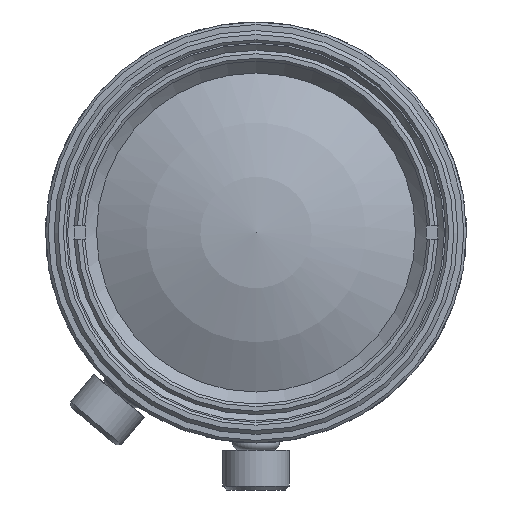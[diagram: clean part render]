
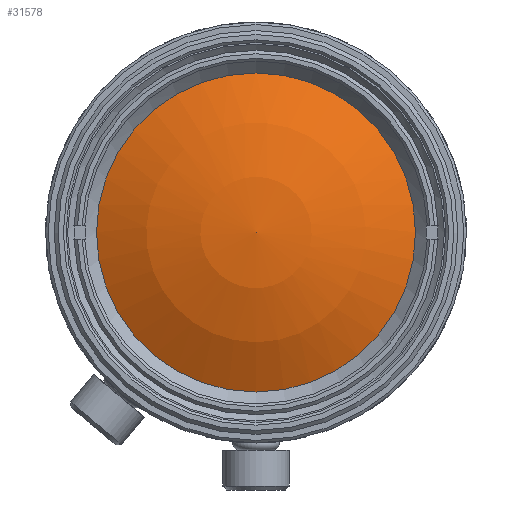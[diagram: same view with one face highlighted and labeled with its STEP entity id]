
A CAD part, front view. The second image highlights one B-rep face of the part: STEP entity #31578.
In plain terms, the highlighted spherical face has radius 24.961 mm.
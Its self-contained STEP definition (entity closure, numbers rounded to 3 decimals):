
#166=SPHERICAL_SURFACE('',#33742,24.961);
#10682=ORIENTED_EDGE('',*,*,#13988,.F.);
#13988=EDGE_CURVE('',#16210,#16210,#17100,.T.);
#16210=VERTEX_POINT('',#58558);
#17100=CIRCLE('',#33743,12.139);
#18671=EDGE_LOOP('',(#10682));
#20252=FACE_BOUND('',#18671,.T.);
#31578=ADVANCED_FACE('',(#20252),#166,.T.);
#33742=AXIS2_PLACEMENT_3D('',#58556,#39234,#39235);
#33743=AXIS2_PLACEMENT_3D('',#58557,#39236,#39237);
#39234=DIRECTION('',(0.,1.,0.));
#39235=DIRECTION('',(0.,0.,-1.));
#39236=DIRECTION('',(0.,1.,0.));
#39237=DIRECTION('',(0.,0.,1.));
#58556=CARTESIAN_POINT('',(0.,-33.696,0.));
#58557=CARTESIAN_POINT('',(0.,-55.506,0.));
#58558=CARTESIAN_POINT('',(0.,-55.506,12.139));
